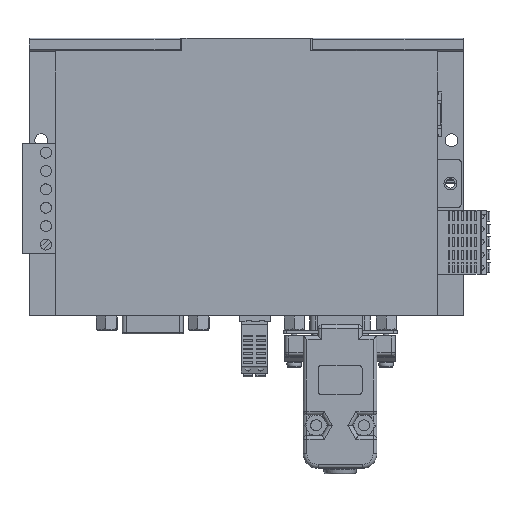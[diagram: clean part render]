
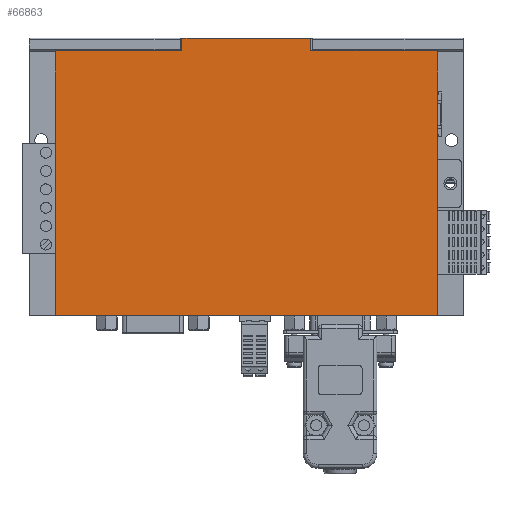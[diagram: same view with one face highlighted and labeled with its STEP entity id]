
A CAD part, top view. The second image highlights one B-rep face of the part: STEP entity #66863.
In plain terms, the highlighted planar face has unit normal (0, 0, 1).
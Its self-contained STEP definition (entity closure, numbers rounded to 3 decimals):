
#10204=ORIENTED_EDGE('',*,*,#25365,.F.);
#10205=ORIENTED_EDGE('',*,*,#25362,.F.);
#10206=ORIENTED_EDGE('',*,*,#25394,.F.);
#10207=ORIENTED_EDGE('',*,*,#25284,.F.);
#10208=ORIENTED_EDGE('',*,*,#25234,.F.);
#10209=ORIENTED_EDGE('',*,*,#25374,.F.);
#10210=ORIENTED_EDGE('',*,*,#25371,.F.);
#10211=ORIENTED_EDGE('',*,*,#25368,.F.);
#25234=EDGE_CURVE('',#33413,#33414,#39685,.T.);
#25284=EDGE_CURVE('',#33414,#33463,#39721,.T.);
#25362=EDGE_CURVE('',#33528,#33529,#39773,.T.);
#25365=EDGE_CURVE('',#33529,#33531,#39776,.T.);
#25368=EDGE_CURVE('',#33531,#33533,#39779,.T.);
#25371=EDGE_CURVE('',#33533,#33535,#39782,.T.);
#25374=EDGE_CURVE('',#33535,#33413,#39785,.T.);
#25394=EDGE_CURVE('',#33463,#33528,#39805,.T.);
#33413=VERTEX_POINT('',#106304);
#33414=VERTEX_POINT('',#106306);
#33463=VERTEX_POINT('',#106407);
#33528=VERTEX_POINT('',#106565);
#33529=VERTEX_POINT('',#106567);
#33531=VERTEX_POINT('',#106573);
#33533=VERTEX_POINT('',#106579);
#33535=VERTEX_POINT('',#106585);
#39685=LINE('',#106305,#46783);
#39721=LINE('',#106406,#46819);
#39773=LINE('',#106566,#46871);
#39776=LINE('',#106572,#46874);
#39779=LINE('',#106578,#46877);
#39782=LINE('',#106584,#46880);
#39785=LINE('',#106589,#46883);
#39805=LINE('',#106626,#46903);
#46783=VECTOR('',#80864,1000.);
#46819=VECTOR('',#80932,1000.);
#46871=VECTOR('',#81068,1000.);
#46874=VECTOR('',#81073,1000.);
#46877=VECTOR('',#81078,1000.);
#46880=VECTOR('',#81083,1000.);
#46883=VECTOR('',#81088,1000.);
#46903=VECTOR('',#81110,1000.);
#53369=EDGE_LOOP('',(#10204,#10205,#10206,#10207,#10208,#10209,#10210,#10211));
#57526=FACE_BOUND('',#53369,.T.);
#60767=PLANE('',#71310);
#66863=ADVANCED_FACE('',(#57526),#60767,.F.);
#71310=AXIS2_PLACEMENT_3D('',#106627,#81111,#81112);
#80864=DIRECTION('',(0.,1.,0.));
#80932=DIRECTION('',(1.,0.,0.));
#81068=DIRECTION('',(-1.,0.,0.));
#81073=DIRECTION('',(0.,-1.,0.));
#81078=DIRECTION('',(-1.,0.,0.));
#81083=DIRECTION('',(0.,1.,0.));
#81088=DIRECTION('',(-1.,0.,0.));
#81110=DIRECTION('',(0.,-1.,0.));
#81111=DIRECTION('',(0.,0.,-1.));
#81112=DIRECTION('',(0.,1.,0.));
#106304=CARTESIAN_POINT('',(-52.,3.5,10.5));
#106305=CARTESIAN_POINT('',(-52.,3.5,10.5));
#106306=CARTESIAN_POINT('',(-52.,75.5,10.5));
#106406=CARTESIAN_POINT('',(21.445,75.5,10.5));
#106407=CARTESIAN_POINT('',(52.,75.5,10.5));
#106565=CARTESIAN_POINT('',(52.,3.5,10.5));
#106566=CARTESIAN_POINT('',(51.,3.5,10.5));
#106567=CARTESIAN_POINT('',(17.5,3.5,10.5));
#106572=CARTESIAN_POINT('',(17.5,3.5,10.5));
#106573=CARTESIAN_POINT('',(17.5,0.,10.5));
#106578=CARTESIAN_POINT('',(17.5,0.,10.5));
#106579=CARTESIAN_POINT('',(-17.5,0.,10.5));
#106584=CARTESIAN_POINT('',(-17.5,0.,10.5));
#106585=CARTESIAN_POINT('',(-17.5,3.5,10.5));
#106589=CARTESIAN_POINT('',(-17.5,3.5,10.5));
#106626=CARTESIAN_POINT('',(52.,3.5,10.5));
#106627=CARTESIAN_POINT('',(0.,0.,10.5));
